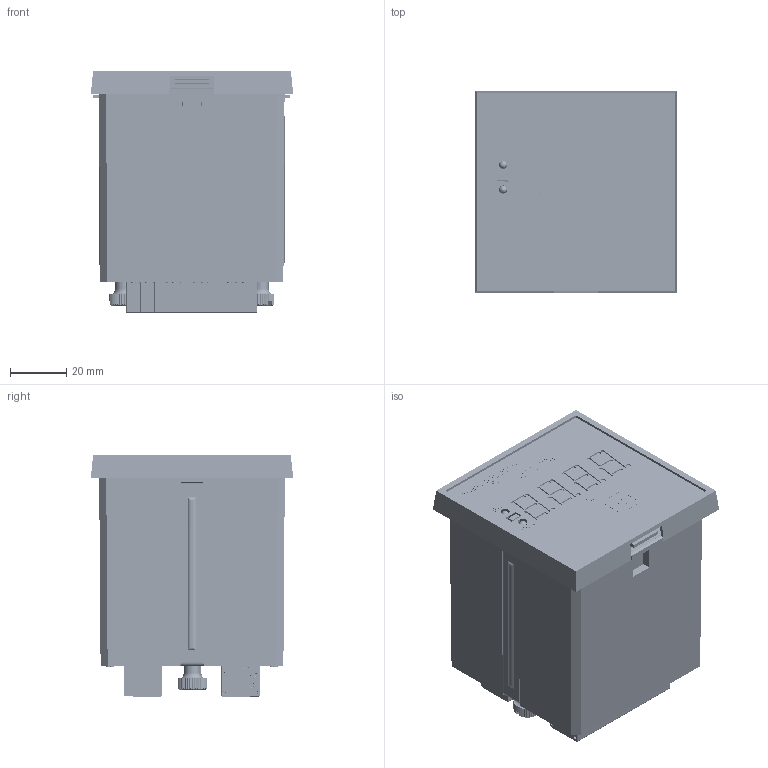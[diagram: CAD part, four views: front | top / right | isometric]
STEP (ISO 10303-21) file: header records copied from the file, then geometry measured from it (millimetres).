
FILE_DESCRIPTION (( 'STEP AP214' ), '1' );
FILE_NAME ('c9257m_72x72x90.STEP', '2025-01-16T06:36:42', ( '' ), ( '' ), 'SwSTEP 2.0', 'SolidWorks 2021', '' );
FILE_SCHEMA (( 'AUTOMOTIVE_DESIGN' ));
Length unit declared in the file: millimetre
Products named in the file (18): body_elc_72x72x90_step; DG271R-5.0-9-x_step; 櫻蠉錪2^DG271R-5.0-9-x; c9257m_72x72x90; ñêîáà-1_step; 扰樖樉; round led(no glow)_step; áîáûøêà; Êîïèÿ sborka-FYQ-5641^Ö9257Ì_step; round led-2_step; Âèíò êðåïëåíèÿ; FYQ-5641; Êîïèÿ Äåòàëü5^DG271R-5.0-9-x_step; 櫻蠉錪6^DG271R-5.0-9-x_step; red-led; Êîïèÿ Êîïèÿ Êðûøêà^Ö9257Ì_step; Äåòàëü1^Êîïèÿ sborka-FYQ-5641_Ö9257Ì_step; DG271R-body(back)_step
Assembly tree (43 placements, depth 3):
  c9257m_72x72x90
    body_elc_72x72x90_step
    Êîïèÿ Êîïèÿ Êðûøêà^Ö9257Ì_step
    áîáûøêà  x2
    扰樖樉  x2
    Âèíò êðåïëåíèÿ  x2
    round led-2_step
    round led(no glow)_step
    red-led
    Êîïèÿ sborka-FYQ-5641^Ö9257Ì_step
      FYQ-5641
    DG271R-5.0-9-x_step  x2
      DG271R-body(back)_step
      ñêîáà-1_step
      Êîïèÿ Äåòàëü5^DG271R-5.0-9-x_step
      櫻蠉錪2^DG271R-5.0-9-x
  櫻蠉錪6^DG271R-5.0-9-x_step
  Äåòàëü1^Êîïèÿ sborka-FYQ-5641_Ö9257Ì_step
Bounding box: 72 x 72.02 x 86.01 mm (x, y, z)
Volume: 75630.6 mm3; surface area: 93135.2 mm2
Topology: 113 solids, 113 shells, 6571 faces, 16661 edges, 10729 vertices
Faces by surface type: plane 3768, cylinder 1960, cone 448, bspline 375, torus 14, sphere 6
Entity records: 75047 total; most frequent: CARTESIAN_POINT 25948, ORIENTED_EDGE 9000, DIRECTION 7743, EDGE_CURVE 4500, LINE 2999, VECTOR 2999, VERTEX_POINT 2961, AXIS2_PLACEMENT_3D 2372
